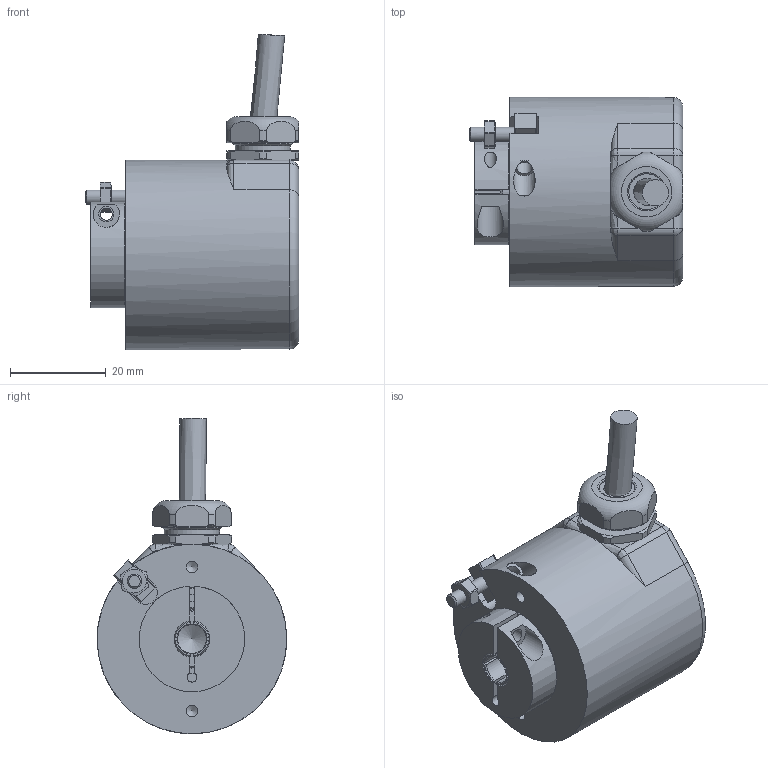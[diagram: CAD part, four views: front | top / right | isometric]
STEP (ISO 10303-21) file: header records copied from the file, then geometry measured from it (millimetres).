
FILE_DESCRIPTION( ( 'Unknown' ), '1' );
FILE_NAME( 'X:/I - Italia/UT - Ufficio Tecnico/Documenti Tecnico/Schede prodotti/InDesign/Assiemi SolidEdge per cataloghi/STEP ASSIEMI/EMI_38_G.stp', 'Unknown', ( 'Unknown' ), ( 'Unknown' ), 'PSStep 17.0.49', 'Unknown', ' ' );
FILE_SCHEMA( ( 'AUTOMOTIVE_DESIGN { 1 0 10303 214 1 1 1 1 }' ) );
Length unit declared in the file: millimetre
Products named in the file (30): cavo
Bounding box: 44.51 x 39.49 x 65.73 mm (x, y, z)
Volume: 25273.6 mm3; surface area: 23048.4 mm2
Topology: 30 solids, 36 shells, 392 faces, 999 edges, 641 vertices
Faces by surface type: plane 143, cylinder 111, cone 76, sphere 34, torus 21, bspline 7
Full cylindrical faces by diameter (mm): 1.4 x3, 2.013 x3, 2.459 x3, 2.5 x1, 3 x2, 3.2 x1, 3.242 x1, 4 x1, 4.5 x1, 6 x2, 7.5 x1, 7.7 x1, 8 x1, 10 x2, 11 x1, 11.5 x1, 11.89 x1, 12 x4, 12.5 x1, 12.6 x2, 14.5 x1, 15 x4, 18.2 x4, 19 x1, 20.4 x2, 21 x2, 26.5 x1, 34.5 x1, 37.3 x2, 37.5 x1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
Entity records: 15348 total; most frequent: CARTESIAN_POINT 3524, DIRECTION 1829, ORIENTED_EDGE 1476, AXIS2_PLACEMENT_3D 788, EDGE_CURVE 738, VERTEX_POINT 589, EDGE_LOOP 523, FACE_OUTER_BOUND 431
